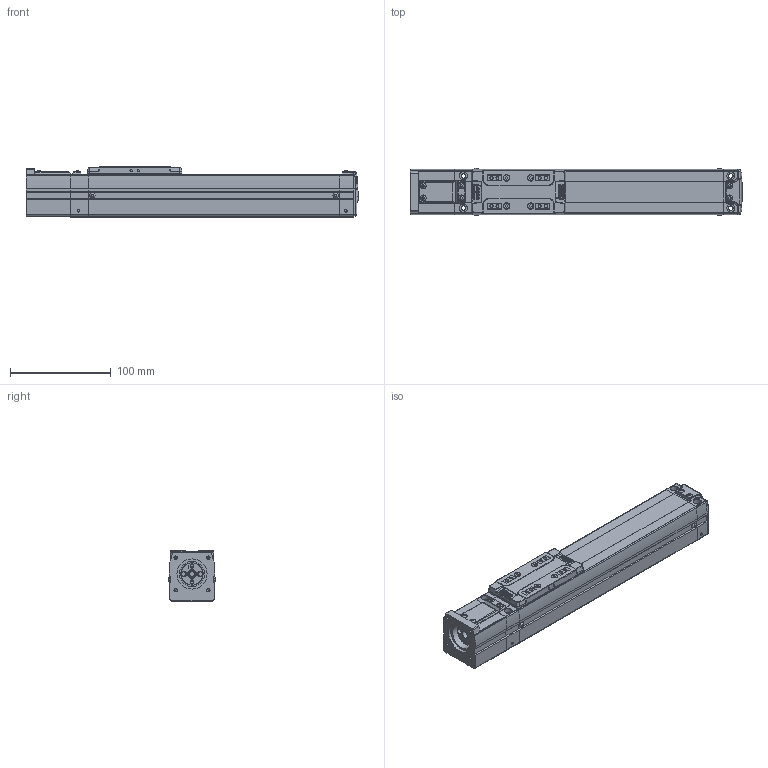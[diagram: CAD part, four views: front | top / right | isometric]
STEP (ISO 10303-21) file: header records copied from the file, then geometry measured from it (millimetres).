
FILE_DESCRIPTION(('STEP AP214'),'1');
FILE_NAME('Z:/Web/3D/SAN45/STP/SAN45ㅁㅁ-150S.stp','2012-06-15T04:25:38',(' '),(' '),'Spatial InterOp 3D',' ',' ');
FILE_SCHEMA(('automotive_design'));
Length unit declared in the file: metre
Products named in the file (63): SAN45__-150; BODY-SAN45; REAR-SAN45; RRCV-SAN45; BHCS M3 x 6L; BHCS M3 X 6L; FRONT-SAN45; SHAFT; RN8 x 0.75; SSFX-SAN45; SLIDE-SAN45; SLCV-IM45; FHCS M3 x 6L; ____91; S; MTHZ-SAN45; SDWB 22C-6-8; SDWB22C(2); SDWB22C(2)_1; SDWB22C(3); SDWB22C(3)_1; SDWB22C(3)_2; SDWB22C(3)_3; SDWB22C(3)_4; SDWB22C(3)_5; SDWB22C(3)_6; SDWB22C(3)_7; SDWB22C(3)_8; SDWB22C(3)_9; SDWB22C(3)_10; SDWB22C(3)_11; SDWB22C(3)_12; SDWB22C(3)_13; SDWB22C(3)_14; SDWB22C(3)_15; SDWB22C(4); SDWB22C(5); SDWB22C(5)_1; SDWB22C(5)_2; SDWB22C(5)_3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
Assembly tree (62 placements, depth 4):
  ____91
    SAN45__-150
      BODY-SAN45
      REAR-SAN45
        REAR-SAN45
        RRCV-SAN45
        BHCS M3 x 6L
        BHCS M3 X 6L
        BHCS M3 x 6L
        BHCS M3 x 6L
        BHCS M3 x 6L
        BHCS M3 x 6L
      FRONT-SAN45
        FRONT-SAN45
        SHAFT
        RN8 x 0.75
        SSFX-SAN45
        BHCS M3 x 6L
        BHCS M3 x 6L
        BHCS M3 x 6L
        BHCS M3 x 6L
      SLIDE-SAN45
        SLIDE-SAN45
        SLCV-IM45
        FHCS M3 x 6L
        FHCS M3 x 6L
        FHCS M3 x 6L
        FHCS M3 x 6L
    S
      MTHZ-SAN45
      SDWB 22C-6-8
        SDWB22C(2)
        SDWB22C(2)_1
        SDWB22C(3)
        SDWB22C(3)_1
        SDWB22C(3)_2
        SDWB22C(3)_3
        SDWB22C(3)_4
        SDWB22C(3)_5
        SDWB22C(3)_6
        SDWB22C(3)_7
        SDWB22C(3)_8
        SDWB22C(3)_9
        SDWB22C(3)_10
        SDWB22C(3)_11
        SDWB22C(3)_12
        SDWB22C(3)_13
        SDWB22C(3)_14
        SDWB22C(3)_15
        SDWB22C(4)
        SDWB22C(5)
        SDWB22C(5)_1
        SDWB22C(5)_2
        SDWB22C(5)_3
        SDWB22C(5)_4
        SDWB22C(5)_5
        SDWB22C(5)_6
        SDWB22C(5)_7
        SDWA22C(1)
        SDWA22C(1)
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Bounding box: 330.15 x 47.13 x 50 mm (x, y, z)
Volume: 601111.2 mm3; surface area: 121976.6 mm2
Topology: 56 solids, 56 shells, 1805 faces, 4626 edges, 3007 vertices
Faces by surface type: plane 1031, cylinder 552, cone 142, bspline 42, sphere 24, torus 11, extrusion 3
Full cylindrical faces by diameter (mm): 0.376 x2, 0.47 x1, 1.137 x2, 1.421 x1, 1.665 x4, 2.081 x2, 2.2 x4, 2.5 x39, 2.6 x14, 2.7 x2, 3 x10, 3.193 x4, 3.3 x8, 3.4 x4, 3.5 x8, 3.991 x2, 4.2 x6, 4.5 x28, 4.9 x2, 5 x13, 6 x9, 7 x1, 8 x9, 9 x1, 10.7 x2, 13 x1, 15 x1, 19 x1, 22.2 x3, 25 x1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
Entity records: 72481 total; most frequent: CARTESIAN_POINT 13856, DIRECTION 9075, ORIENTED_EDGE 8352, EDGE_CURVE 4176, AXIS2_PLACEMENT_3D 3223, VERTEX_POINT 2888, VECTOR 2629, LINE 2626
